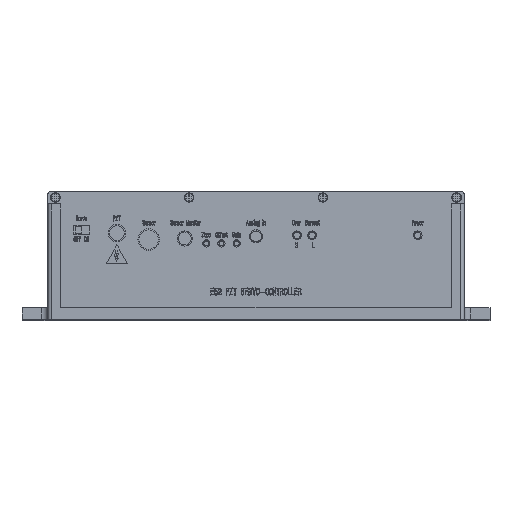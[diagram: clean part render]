
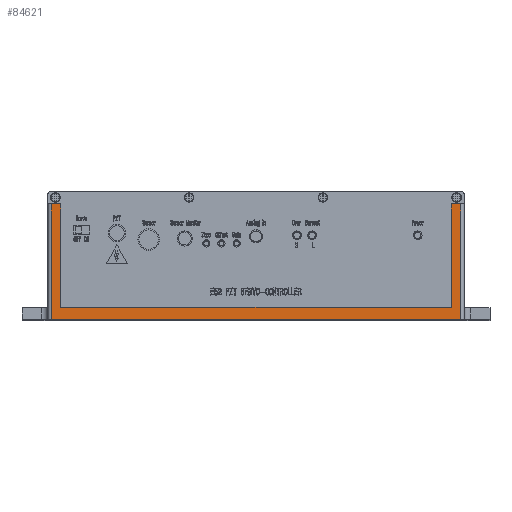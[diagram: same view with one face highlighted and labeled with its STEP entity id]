
A CAD part, top view. The second image highlights one B-rep face of the part: STEP entity #84621.
In plain terms, the highlighted planar face has unit normal (0, 0, 1).
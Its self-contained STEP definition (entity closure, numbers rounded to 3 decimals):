
#1125 = LINE ( 'NONE', #86372, #55833 ) ;
#4880 = CARTESIAN_POINT ( 'NONE',  ( -90.5, -32.75, 3.75 ) ) ;
#7901 = VERTEX_POINT ( 'NONE', #77240 ) ;
#8973 = LINE ( 'NONE', #101977, #121823 ) ;
#9953 = DIRECTION ( 'NONE',  ( 1., 0., 0. ) ) ;
#12702 = EDGE_LOOP ( 'NONE', ( #44390, #90624, #111227, #77522, #17717, #111132, #84908, #25297 ) ) ;
#17717 = ORIENTED_EDGE ( 'NONE', *, *, #132895, .F. ) ;
#19052 = EDGE_CURVE ( 'NONE', #105814, #110028, #127000, .T. ) ;
#20922 = DIRECTION ( 'NONE',  ( -1., 0., 0. ) ) ;
#23905 = VERTEX_POINT ( 'NONE', #87663 ) ;
#24047 = EDGE_CURVE ( 'NONE', #7901, #44040, #8973, .T. ) ;
#25003 = DIRECTION ( 'NONE',  ( 1., 0., 0. ) ) ;
#25297 = ORIENTED_EDGE ( 'NONE', *, *, #137634, .F. ) ;
#29561 = CARTESIAN_POINT ( 'NONE',  ( 95., -6., 3.75 ) ) ;
#32226 = LINE ( 'NONE', #79476, #119490 ) ;
#37338 = LINE ( 'NONE', #75377, #66378 ) ;
#37874 = DIRECTION ( 'NONE',  ( 0., -1., 0. ) ) ;
#40959 = VECTOR ( 'NONE', #37874, 1000. ) ;
#44040 = VERTEX_POINT ( 'NONE', #86259 ) ;
#44343 = AXIS2_PLACEMENT_3D ( 'NONE', #140898, #86386, #20922 ) ;
#44390 = ORIENTED_EDGE ( 'NONE', *, *, #131463, .F. ) ;
#46692 = LINE ( 'NONE', #58934, #62060 ) ;
#46973 = DIRECTION ( 'NONE',  ( 1., 0., 0. ) ) ;
#47829 = CARTESIAN_POINT ( 'NONE',  ( 90.5, -54., 3.75 ) ) ;
#47968 = DIRECTION ( 'NONE',  ( 0., 1., 0. ) ) ;
#53447 = VECTOR ( 'NONE', #79435, 1000. ) ;
#55833 = VECTOR ( 'NONE', #97444, 1000. ) ;
#56551 = EDGE_CURVE ( 'NONE', #110028, #82744, #32226, .T. ) ;
#57274 = VERTEX_POINT ( 'NONE', #29561 ) ;
#58934 = CARTESIAN_POINT ( 'NONE',  ( -95., -32.75, 3.75 ) ) ;
#62060 = VECTOR ( 'NONE', #47968, 1000. ) ;
#64921 = LINE ( 'NONE', #84975, #94058 ) ;
#66378 = VECTOR ( 'NONE', #9953, 1000. ) ;
#70352 = CARTESIAN_POINT ( 'NONE',  ( 95., -32.75, 3.75 ) ) ;
#75377 = CARTESIAN_POINT ( 'NONE',  ( 0., -6., 3.75 ) ) ;
#75411 = PLANE ( 'NONE',  #44343 ) ;
#77240 = CARTESIAN_POINT ( 'NONE',  ( -95., -59.5, 3.75 ) ) ;
#77522 = ORIENTED_EDGE ( 'NONE', *, *, #19052, .F. ) ;
#79435 = DIRECTION ( 'NONE',  ( 0., -1., 0. ) ) ;
#79476 = CARTESIAN_POINT ( 'NONE',  ( 0., -54., 3.75 ) ) ;
#79812 = EDGE_CURVE ( 'NONE', #82744, #23905, #64921, .T. ) ;
#82744 = VERTEX_POINT ( 'NONE', #47829 ) ;
#84621 = ADVANCED_FACE ( 'NONE', ( #86661 ), #75411, .F. ) ;
#84908 = ORIENTED_EDGE ( 'NONE', *, *, #24047, .T. ) ;
#84975 = CARTESIAN_POINT ( 'NONE',  ( 90.5, -32.75, 3.75 ) ) ;
#86259 = CARTESIAN_POINT ( 'NONE',  ( 95., -59.5, 3.75 ) ) ;
#86372 = CARTESIAN_POINT ( 'NONE',  ( 0., -6., 3.75 ) ) ;
#86386 = DIRECTION ( 'NONE',  ( 0., 0., -1. ) ) ;
#86661 = FACE_OUTER_BOUND ( 'NONE', #12702, .T. ) ;
#87663 = CARTESIAN_POINT ( 'NONE',  ( 90.5, -6., 3.75 ) ) ;
#90624 = ORIENTED_EDGE ( 'NONE', *, *, #79812, .F. ) ;
#92308 = LINE ( 'NONE', #70352, #40959 ) ;
#94058 = VECTOR ( 'NONE', #96024, 1000. ) ;
#95985 = EDGE_CURVE ( 'NONE', #7901, #114226, #46692, .T. ) ;
#96024 = DIRECTION ( 'NONE',  ( 0., 1., 0. ) ) ;
#97444 = DIRECTION ( 'NONE',  ( 1., 0., 0. ) ) ;
#100581 = CARTESIAN_POINT ( 'NONE',  ( -90.5, -54., 3.75 ) ) ;
#101977 = CARTESIAN_POINT ( 'NONE',  ( 0., -59.5, 3.75 ) ) ;
#105814 = VERTEX_POINT ( 'NONE', #130190 ) ;
#110028 = VERTEX_POINT ( 'NONE', #100581 ) ;
#111132 = ORIENTED_EDGE ( 'NONE', *, *, #95985, .F. ) ;
#111227 = ORIENTED_EDGE ( 'NONE', *, *, #56551, .F. ) ;
#114226 = VERTEX_POINT ( 'NONE', #127917 ) ;
#119490 = VECTOR ( 'NONE', #25003, 1000. ) ;
#121823 = VECTOR ( 'NONE', #46973, 1000. ) ;
#127000 = LINE ( 'NONE', #4880, #53447 ) ;
#127917 = CARTESIAN_POINT ( 'NONE',  ( -95., -6., 3.75 ) ) ;
#130190 = CARTESIAN_POINT ( 'NONE',  ( -90.5, -6., 3.75 ) ) ;
#131463 = EDGE_CURVE ( 'NONE', #23905, #57274, #37338, .T. ) ;
#132895 = EDGE_CURVE ( 'NONE', #114226, #105814, #1125, .T. ) ;
#137634 = EDGE_CURVE ( 'NONE', #57274, #44040, #92308, .T. ) ;
#140898 = CARTESIAN_POINT ( 'NONE',  ( 95., -59.5, 3.75 ) ) ;
